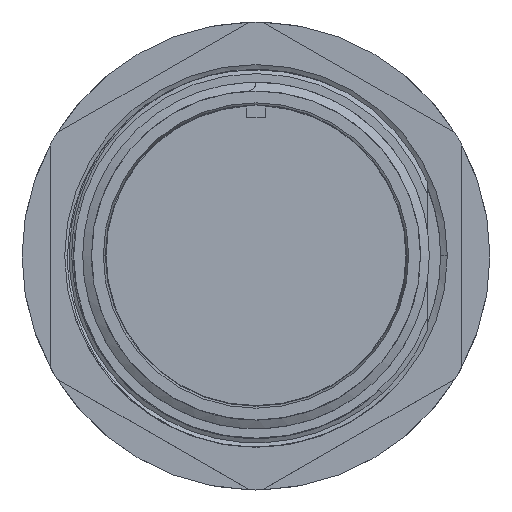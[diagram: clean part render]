
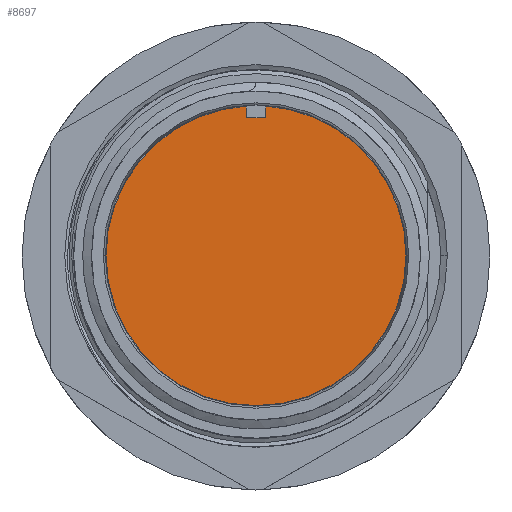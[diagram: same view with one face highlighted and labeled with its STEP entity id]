
A CAD part, top view. The second image highlights one B-rep face of the part: STEP entity #8697.
In plain terms, the highlighted planar face has unit normal (0, 0, 1).
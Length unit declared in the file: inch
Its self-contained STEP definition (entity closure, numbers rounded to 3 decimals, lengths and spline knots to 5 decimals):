
#719 = EDGE_LOOP ( 'NONE', ( #15239, #11774 ) ) ;
#1009 = DIRECTION ( 'NONE',  ( 1., 0., 0. ) ) ;
#1267 = CIRCLE ( 'NONE', #11394, 0.5925 ) ;
#1312 = DIRECTION ( 'NONE',  ( 0., 0., 1. ) ) ;
#1626 = VERTEX_POINT ( 'NONE', #13111 ) ;
#3773 = CARTESIAN_POINT ( 'NONE',  ( 0., 0., -0.56284 ) ) ;
#4041 = FACE_OUTER_BOUND ( 'NONE', #719, .T. ) ;
#5539 = VERTEX_POINT ( 'NONE', #17590 ) ;
#5785 = AXIS2_PLACEMENT_3D ( 'NONE', #13445, #10700, #1009 ) ;
#7032 = EDGE_CURVE ( 'NONE', #1626, #5539, #1267, .T. ) ;
#8010 = DIRECTION ( 'NONE',  ( 1., 0., 0. ) ) ;
#8528 = CARTESIAN_POINT ( 'NONE',  ( 0., 0., -0.56284 ) ) ;
#8697 = ADVANCED_FACE ( 'NONE', ( #4041 ), #17827, .T. ) ;
#10700 = DIRECTION ( 'NONE',  ( 0., 0., 1. ) ) ;
#11275 = CIRCLE ( 'NONE', #5785, 0.5925 ) ;
#11394 = AXIS2_PLACEMENT_3D ( 'NONE', #8528, #12893, #17084 ) ;
#11774 = ORIENTED_EDGE ( 'NONE', *, *, #7032, .T. ) ;
#12893 = DIRECTION ( 'NONE',  ( 0., 0., 1. ) ) ;
#13111 = CARTESIAN_POINT ( 'NONE',  ( -0.5925, 0., -0.56284 ) ) ;
#13445 = CARTESIAN_POINT ( 'NONE',  ( 0., 0., -0.56284 ) ) ;
#14607 = AXIS2_PLACEMENT_3D ( 'NONE', #3773, #1312, #8010 ) ;
#15239 = ORIENTED_EDGE ( 'NONE', *, *, #17419, .T. ) ;
#17084 = DIRECTION ( 'NONE',  ( 1., 0., 0. ) ) ;
#17419 = EDGE_CURVE ( 'NONE', #5539, #1626, #11275, .T. ) ;
#17590 = CARTESIAN_POINT ( 'NONE',  ( 0.5925, 0., -0.56284 ) ) ;
#17827 = PLANE ( 'NONE',  #14607 ) ;
